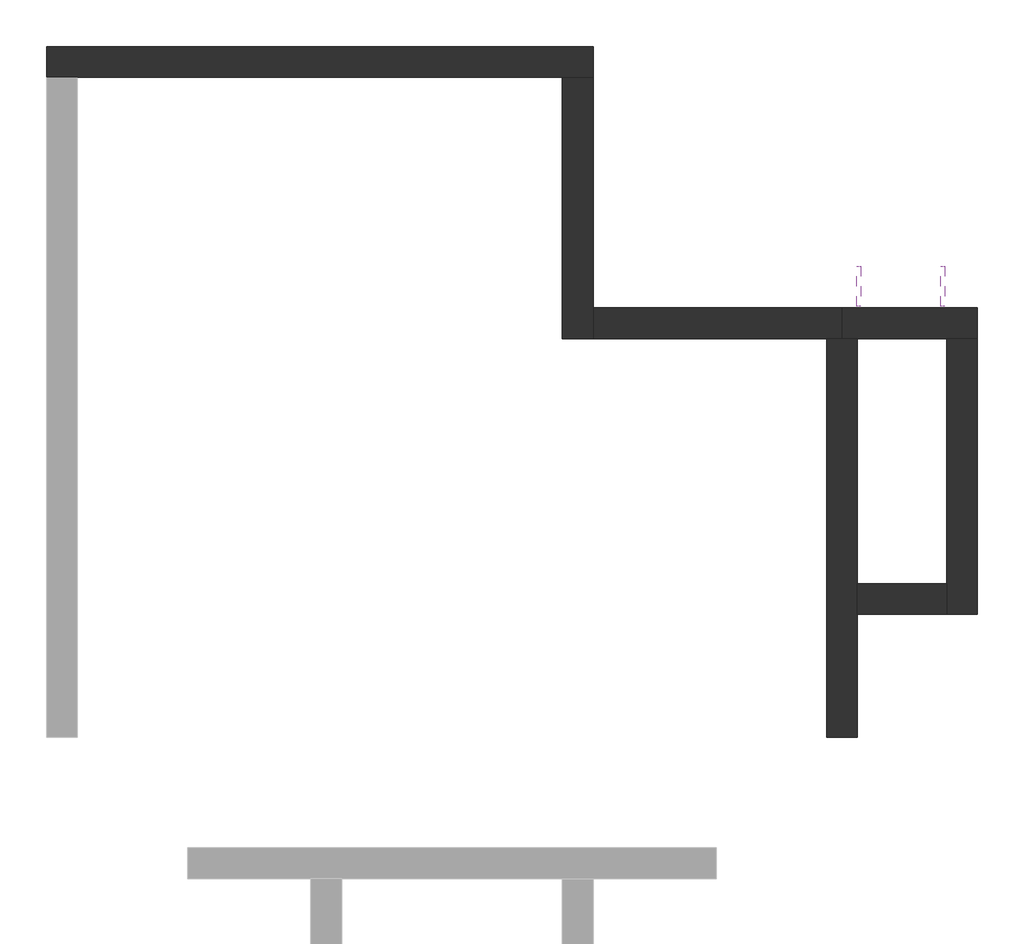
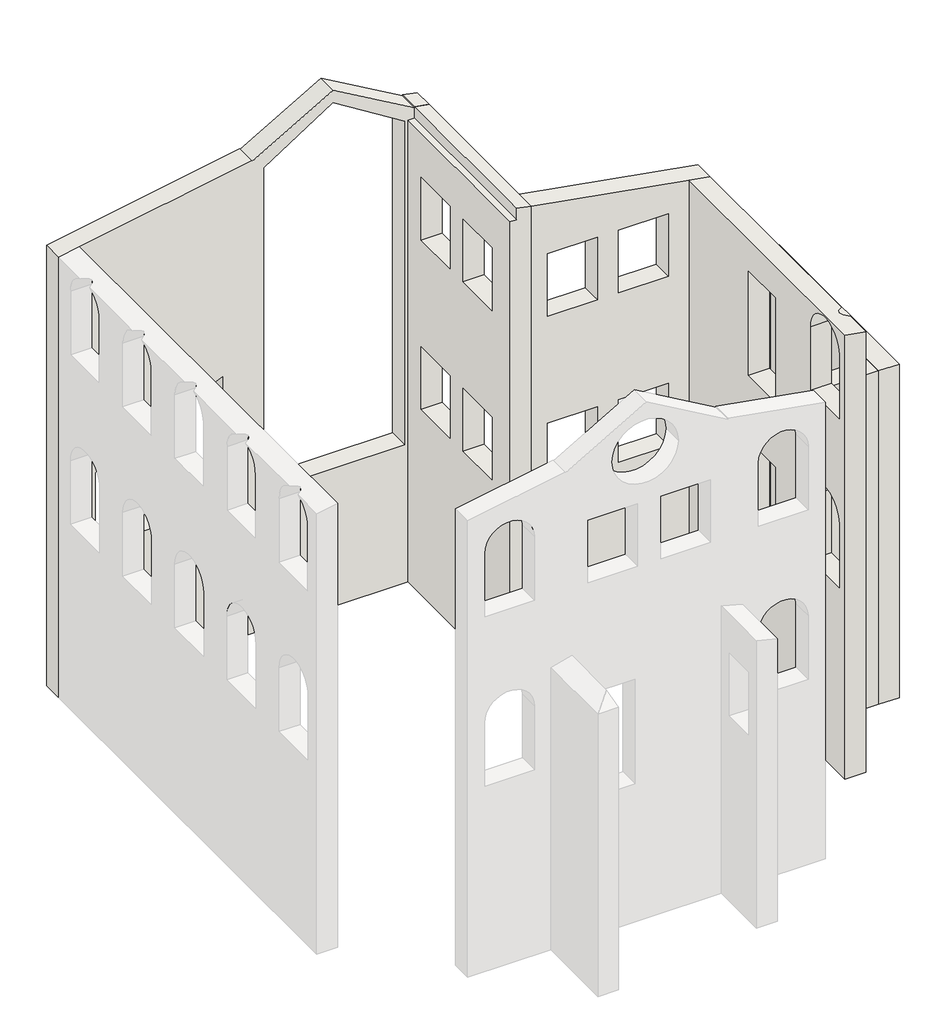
# One storey, part 2 of 2: 7 walls, 2 railings.
"""IFC4 building model written with IfcOpenShell, lengths in millimetres."""

from ifc_helpers import new_model, si_unit, frame, origin, place, context, project, spatial, polyline, circle_curve, ellipse_curve, outline, extrude, faceted_brep, transform, mapped, element, save
from ifc_brep_helpers import plane_surface, revolved_surface, advanced_brep
from components import railing_35c55930, railing_ca177ed8

model = new_model("IFC4")

# Units and contexts
model_context = context("Model", 3, world=origin())
ifc_project = project(units=[si_unit("LENGTHUNIT", "METRE", prefix="MILLI")], contexts=[model_context])

# Site, building, storey
site = spatial("IfcSite", under=ifc_project)
building = spatial("IfcBuilding", under=site)
storey = spatial("IfcBuildingStorey", under=building, Name="Подвал", Elevation=-2700.0)

# Railings
placement = place(None, origin())
railing_shape = railing_35c55930(model_context)
element("IfcRailing", 1, ObjectType="1100 мм", at=placement, inside=storey, context=model_context, shape_type="MappedRepresentation", body=[
    mapped(railing_shape, transform((0.0, 0.0, 0.0), x_axis=(1.0, 0.0, 0.0), y_axis=(0.0, 1.0, 0.0), z_axis=(0.0, 0.0, 1.0))),
])
railing_2_shape = railing_ca177ed8(model_context)
element("IfcRailing", 2, ObjectType="1100 мм", at=placement, inside=storey, context=model_context, shape_type="MappedRepresentation", body=[
    mapped(railing_2_shape, transform((0.0, 0.0, 0.0), x_axis=(1.0, 0.0, 0.0), y_axis=(0.0, 1.0, 0.0), z_axis=(0.0, 0.0, 1.0))),
])

# Walls
element("IfcWall", 3, ObjectType="1 Типовая", at=placement, inside=storey, context=model_context, shape_type="Brep", body=[
    faceted_brep([(-11879.2998207, 7309.4374152, -2700.0), (-11494.2998207, 7309.4374152, -2700.0), (-5434.2998207, 7309.4374152, -2700.0), (-5049.2998207, 7309.4374152, -2700.0), (-5049.2998207, 7309.4374152, 6470.0425267), (-5314.2998207, 7309.4374152, 6516.7691766), (-5314.2998207, 7309.4374152, 6500.0), (-6814.2998207, 7309.4374152, 7366.0254038), (-8314.2998207, 7309.4374152, 6500.0), (-8314.2998207, 7309.4374152, 6516.7691766), (-11494.2998207, 7309.4374152, 5956.0493779), (-11879.2998207, 7309.4374152, 5888.1634904), (-8086.7998207, 7309.4374152, 0.0), (-8086.7998207, 7309.4374152, 6300.0), (-6814.2998207, 7309.4374152, 7125.0), (-5499.2998207, 7309.4374152, 6300.0), (-5499.2998207, 7309.4374152, 0.0), (-11194.2998207, 7309.4374152, 0.0), (-11194.2998207, 7309.4374152, 1440.0), (-8854.2998207, 7309.4374152, 2500.0), (-8854.2998207, 7309.4374152, 0.0), (-5049.2998207, 7694.4374152, -2700.0), (-11879.2998207, 7694.4374152, -2700.0), (-11879.2998207, 7694.4374152, 5888.1634904), (-8314.2998207, 7694.4374152, 6516.7691766), (-8314.2998207, 7694.4374152, 6500.0), (-6814.2998207, 7694.4374152, 7366.0254038), (-5314.2998207, 7694.4374152, 6500.0), (-5314.2998207, 7694.4374152, 6516.7691766), (-5049.2998207, 7694.4374152, 6470.0425267), (-8086.7998207, 7694.4374152, 6300.0), (-8086.7998207, 7694.4374152, 0.0), (-5499.2998207, 7694.4374152, 0.0), (-5499.2998207, 7694.4374152, 6300.0), (-6814.2998207, 7694.4374152, 7125.0), (-11194.2998207, 7694.4374152, 1440.0), (-11194.2998207, 7694.4374152, 0.0), (-8854.2998207, 7694.4374152, 0.0), (-8854.2998207, 7694.4374152, 2500.0)], [[[0, 1, 2, 3, 4, 5, 6, 7, 8, 9, 10, 11], [12, 13, 14, 15, 16], [17, 18, 19, 20]], [[21, 22, 23, 24, 25, 26, 27, 28, 29], [30, 31, 32, 33, 34], [35, 36, 37, 38]], [[3, 2, 1, 0, 22, 21]], [[0, 11, 23, 22]], [[4, 3, 21, 29]], [[28, 27, 6, 5]], [[9, 8, 25, 24]], [[23, 11, 10, 9, 24]], [[4, 29, 28, 5]], [[25, 8, 7, 26]], [[6, 27, 26, 7]], [[30, 13, 12, 31]], [[13, 30, 34, 14]], [[14, 34, 33, 15]], [[15, 33, 32, 16]], [[31, 12, 16, 32]], [[17, 36, 35, 18]], [[18, 35, 38, 19]], [[19, 38, 37, 20]], [[36, 17, 20, 37]]]),
])
element("IfcWall", 4, ObjectType="1 Типовая", at=placement, inside=storey, context=model_context, shape_type="AdvancedBrep", body=[
    advanced_brep(
    [(-2134.2998207, 4044.4374152, -2700.0), (-2134.2998207, -935.5625848, -2700.0), (-2134.2998207, -935.5625848, 5956.0493779), (-2134.2998207, 4044.4374152, 5956.0493779), (-2134.2998207, 2148.4374152, 0.0), (-2134.2998207, 2148.4374152, 2032.0), (-2134.2998207, 1284.4374152, 2032.0), (-2134.2998207, 1284.4374152, 0.0), (-2134.2998207, -750.5625848, 2154.05), (-2134.2998207, -750.5625848, 915.0), (-2134.2998207, 164.4374152, 915.0), (-2134.2998207, 164.4374152, 2154.05), (-2134.2998207, 2148.4374152, 3300.0), (-2134.2998207, 2148.4374152, 5332.0), (-2134.2998207, 1284.4374152, 5332.0), (-2134.2998207, 1284.4374152, 3300.0), (-2134.2998207, -750.5625848, 5454.05), (-2134.2998207, -750.5625848, 4215.0), (-2134.2998207, 164.4374152, 4215.0), (-2134.2998207, 164.4374152, 5454.05), (-1749.2998207, -935.5625848, -2700.0), (-1749.2998207, 599.4374152, -2700.0), (-1749.2998207, 984.4374152, -2700.0), (-1749.2998207, 4044.4374152, -2700.0), (-1749.2998207, 4044.4374152, 3800.0), (-1749.2998207, 4044.4374152, 5888.1634904), (-1749.2998207, -148.6613123, 5888.1634904), (-1749.2998207, 164.4374152, 5454.05), (-1749.2998207, 164.4374152, 4215.0), (-1749.2998207, -750.5625848, 4215.0), (-1749.2998207, -750.5625848, 5454.05), (-1749.2998207, -437.4638573, 5888.1634904), (-1749.2998207, -935.5625848, 5888.1634904), (-1749.2998207, 2148.4374152, 0.0), (-1749.2998207, 1284.4374152, 0.0), (-1749.2998207, 1284.4374152, 2032.0), (-1749.2998207, 2148.4374152, 2032.0), (-1749.2998207, -750.5625848, 2154.05), (-1749.2998207, 164.4374152, 2154.05), (-1749.2998207, 164.4374152, 915.0), (-1749.2998207, -750.5625848, 915.0), (-1749.2998207, 2148.4374152, 3300.0), (-1749.2998207, 1284.4374152, 3300.0), (-1749.2998207, 1284.4374152, 5332.0), (-1749.2998207, 2148.4374152, 5332.0), (-1941.7998207, 4044.4374152, -2700.0)],
    [
        (0, 1),
        (1, 2),
        (2, 3),
        (3, 0),
        (4, 5),
        (5, 6),
        (6, 7),
        (7, 4),
        (8, 9),
        (9, 10),
        (10, 11),
        (11, 8, circle_curve(frame((-2134.2998207, -293.0625848, 2154.05), z_axis=(1.0, 0.0, 0.0), x_axis=(0.0, -1.0, 0.0)), 457.5)),
        (12, 13),
        (13, 14),
        (14, 15),
        (15, 12),
        (16, 17),
        (17, 18),
        (18, 19),
        (19, 16, circle_curve(frame((-2134.2998207, -293.0625848, 5454.05), z_axis=(1.0, 0.0, 0.0), x_axis=(0.0, -1.0, 0.0)), 457.5)),
        (20, 21),
        (21, 22),
        (22, 23),
        (23, 24),
        (24, 25),
        (25, 26),
        (26, 27, circle_curve(frame((-1749.2998207, -293.0625848, 5454.05), z_axis=(-1.0, 0.0, 0.0), x_axis=(0.0, -1.0, 0.0)), 457.5)),
        (27, 28),
        (28, 29),
        (29, 30),
        (30, 31, circle_curve(frame((-1749.2998207, -293.0625848, 5454.05), z_axis=(-1.0, 0.0, 0.0), x_axis=(0.0, -1.0, 0.0)), 457.5)),
        (31, 32),
        (32, 20),
        (33, 34),
        (34, 35),
        (35, 36),
        (36, 33),
        (37, 38, circle_curve(frame((-1749.2998207, -293.0625848, 2154.05), z_axis=(-1.0, 0.0, 0.0), x_axis=(0.0, -1.0, 0.0)), 457.5)),
        (38, 39),
        (39, 40),
        (40, 37),
        (41, 42),
        (42, 43),
        (43, 44),
        (44, 41),
        (0, 45),
        (45, 23),
        (20, 1),
        (32, 2),
        (3, 25),
        (33, 4),
        (7, 34),
        (6, 35),
        (5, 36),
        (8, 37),
        (40, 9),
        (39, 10),
        (38, 11),
        (41, 12),
        (15, 42),
        (14, 43),
        (13, 44),
        (31, 26, ellipse_curve(frame((712.6801248, -293.0625848, 5454.05), z_axis=(-0.17364817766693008, 0.0, -0.9848077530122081), x_axis=(0.9848077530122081, 0.0, -0.17364817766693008)), 2634.637496, 457.5)),
        (16, 30),
        (29, 17),
        (28, 18),
        (27, 19),
    ],
    [
        plane_surface(frame((-2134.2998207, 7429.4374152, -2700.0), z_axis=(-1.0, 0.0, 0.0), x_axis=(0.0, -1.0, 0.0))),
        plane_surface(frame((-1749.2998207, 7429.4374152, -2700.0), z_axis=(1.0, 0.0, 0.0), x_axis=(0.0, 1.0, 0.0))),
        plane_surface(frame((-2134.2998207, 4236.9374152, -2700.0), z_axis=(0.0, 0.0, -1.0), x_axis=(1.0, 0.0, 0.0))),
        plane_surface(frame((-2134.2998207, -935.5625848, -2700.0), z_axis=(0.0, -1.0, 0.0), x_axis=(1.0, 0.0, 0.0))),
        plane_surface(frame((-5314.2998207, 4044.4374152, -2700.0), z_axis=(0.0, 1.0, 0.0), x_axis=(1.0, 0.0, 0.0))),
        plane_surface(frame((-1749.2998207, 2148.4374152, 0.0), z_axis=(0.0, 0.0, 1.0), x_axis=(-1.0, 0.0, 0.0))),
        plane_surface(frame((-1749.2998207, 1284.4374152, 0.0), z_axis=(0.0, 1.0, 0.0), x_axis=(-1.0, 0.0, 0.0))),
        plane_surface(frame((-1749.2998207, 1284.4374152, 2032.0), z_axis=(0.0, 0.0, -1.0), x_axis=(-1.0, 0.0, 0.0))),
        plane_surface(frame((-1749.2998207, 2148.4374152, 2032.0), z_axis=(0.0, -1.0, 0.0), x_axis=(-1.0, 0.0, 0.0))),
        plane_surface(frame((-2134.2998207, -750.5625848, 2154.05), z_axis=(0.0, 1.0, 0.0), x_axis=(1.0, 0.0, 0.0))),
        plane_surface(frame((-2134.2998207, -750.5625848, 915.0), z_axis=(0.0, 0.0, 1.0), x_axis=(1.0, 0.0, 0.0))),
        plane_surface(frame((-2134.2998207, 164.4374152, 915.0), z_axis=(0.0, -1.0, 0.0), x_axis=(1.0, 0.0, 0.0))),
        revolved_surface(polyline([(-1749.2998207, -750.5625848, 2154.05), (-2134.2998207, -750.5625848, 2154.05)]), (-2134.2998207, -293.0625848, 2154.05), (1.0, 0.0, 0.0)),
        plane_surface(frame((-1749.2998207, 2148.4374152, 3300.0), z_axis=(0.0, 0.0, 1.0), x_axis=(-1.0, 0.0, 0.0))),
        plane_surface(frame((-1749.2998207, 1284.4374152, 3300.0), z_axis=(0.0, 1.0, 0.0), x_axis=(-1.0, 0.0, 0.0))),
        plane_surface(frame((-1749.2998207, 1284.4374152, 5332.0), z_axis=(0.0, 0.0, -1.0), x_axis=(-1.0, 0.0, 0.0))),
        plane_surface(frame((-1749.2998207, 2148.4374152, 5332.0), z_axis=(0.0, -1.0, 0.0), x_axis=(-1.0, 0.0, 0.0))),
        plane_surface(frame((-1249.2998207, -3200.5625848, 5800.0), z_axis=(0.17364817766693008, 0.0, 0.9848077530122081), x_axis=(0.0, 1.0, 0.0))),
        plane_surface(frame((-610.2998207, -750.5625848, 5454.05), z_axis=(0.0, 1.0, 0.0), x_axis=(-1.0, 0.0, 0.0))),
        plane_surface(frame((-610.2998207, -750.5625848, 4215.0), z_axis=(0.0, 0.0, 1.0), x_axis=(-1.0, 0.0, 0.0))),
        plane_surface(frame((-610.2998207, 164.4374152, 4215.0), z_axis=(0.0, -1.0, 0.0), x_axis=(-1.0, 0.0, 0.0))),
        revolved_surface(polyline([(3307.2915572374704, -750.5625848, 5454.05), (-2134.2998207, -750.5625848, 5454.05)]), (-3658.2998207, -293.0625848, 5454.05), (1.0, 0.0, 0.0)),
    ],
    [
        (0, [[1, 2, 3, 4], [5, 6, 7, 8], [9, 10, 11, 12], [13, 14, 15, 16], [17, 18, 19, 20]]),
        (1, [[21, 22, 23, 24, 25, 26, 27, 28, 29, 30, 31, 32, 33], [34, 35, 36, 37], [38, 39, 40, 41], [42, 43, 44, 45]]),
        (2, [[-1, 46, 47, -23, -22, -21, 48]]),
        (3, [[-2, -48, -33, 49]]),
        (4, [[-47, -46, -4, 50, -25, -24]]),
        (5, [[-34, 51, -8, 52]]),
        (6, [[-35, -52, -7, 53]]),
        (7, [[-36, -53, -6, 54]]),
        (8, [[-37, -54, -5, -51]]),
        (9, [[-9, 55, -41, 56]]),
        (10, [[-10, -56, -40, 57]]),
        (11, [[-11, -57, -39, 58]]),
        (12, [[-12, -58, -38, -55]]),
        (13, [[-42, 59, -16, 60]]),
        (14, [[-43, -60, -15, 61]]),
        (15, [[-44, -61, -14, 62]]),
        (16, [[-45, -62, -13, -59]]),
        (17, [[-3, -49, -32, 63, -26, -50]]),
        (18, [[64, -30, 65, -17]]),
        (19, [[-65, -29, 66, -18]]),
        (20, [[-66, -28, 67, -19]]),
        (21, [[-64, -20, -67, -27, -63, -31]]),
    ],
),
])
element("IfcWall", 5, ObjectType="1 Типовая", at=placement, inside=storey, context=model_context, shape_type="Brep", body=[
    faceted_brep([(-5434.2998207, 7309.4374152, -2700.0), (-5434.2998207, 4044.4374152, -2700.0), (-5434.2998207, 4044.4374152, 0.0), (-5434.2998207, 4044.4374152, 6300.0), (-5434.2998207, 4284.4374152, 6300.0), (-5434.2998207, 7309.4374152, 6300.0), (-5434.2998207, 4629.4374152, 2135.0), (-5434.2998207, 4629.4374152, 915.0), (-5434.2998207, 5554.4374152, 915.0), (-5434.2998207, 5554.4374152, 2135.0), (-5434.2998207, 5969.4374152, 2135.0), (-5434.2998207, 5969.4374152, 915.0), (-5434.2998207, 6894.4374152, 915.0), (-5434.2998207, 6894.4374152, 2135.0), (-5434.2998207, 4629.4374152, 5435.0), (-5434.2998207, 4629.4374152, 4215.0), (-5434.2998207, 5554.4374152, 4215.0), (-5434.2998207, 5554.4374152, 5435.0), (-5434.2998207, 5969.4374152, 5435.0), (-5434.2998207, 5969.4374152, 4215.0), (-5434.2998207, 6894.4374152, 4215.0), (-5434.2998207, 6894.4374152, 5435.0), (-5049.2998207, 7309.4374152, -2700.0), (-5049.2998207, 7309.4374152, 6470.0425267), (-5049.2998207, 4429.4374152, 6470.0425267), (-5049.2998207, 4044.4374152, 6470.0425267), (-5049.2998207, 4044.4374152, -2700.0), (-5049.2998207, 4429.4374152, -2700.0), (-5049.2998207, 4629.4374152, 2135.0), (-5049.2998207, 5554.4374152, 2135.0), (-5049.2998207, 5554.4374152, 915.0), (-5049.2998207, 4629.4374152, 915.0), (-5049.2998207, 5969.4374152, 2135.0), (-5049.2998207, 6894.4374152, 2135.0), (-5049.2998207, 6894.4374152, 915.0), (-5049.2998207, 5969.4374152, 915.0), (-5049.2998207, 4629.4374152, 5435.0), (-5049.2998207, 5554.4374152, 5435.0), (-5049.2998207, 5554.4374152, 4215.0), (-5049.2998207, 4629.4374152, 4215.0), (-5049.2998207, 5969.4374152, 5435.0), (-5049.2998207, 6894.4374152, 5435.0), (-5049.2998207, 6894.4374152, 4215.0), (-5049.2998207, 5969.4374152, 4215.0), (-5314.2998207, 7309.4374152, 6300.0), (-5314.2998207, 7309.4374152, 6500.0), (-5314.2998207, 7309.4374152, 6516.7691766), (-5314.2998207, 4044.4374152, 6516.7691766), (-5314.2998207, 4044.4374152, 6300.0)], [[[0, 1, 2, 3, 4, 5], [6, 7, 8, 9], [10, 11, 12, 13], [14, 15, 16, 17], [18, 19, 20, 21]], [[22, 23, 24, 25, 26, 27], [28, 29, 30, 31], [32, 33, 34, 35], [36, 37, 38, 39], [40, 41, 42, 43]], [[1, 0, 22, 27, 26]], [[0, 5, 44, 45, 46, 23, 22]], [[7, 6, 28, 31]], [[8, 7, 31, 30]], [[9, 8, 30, 29]], [[6, 9, 29, 28]], [[11, 10, 32, 35]], [[12, 11, 35, 34]], [[13, 12, 34, 33]], [[10, 13, 33, 32]], [[15, 14, 36, 39]], [[16, 15, 39, 38]], [[17, 16, 38, 37]], [[14, 17, 37, 36]], [[19, 18, 40, 43]], [[20, 19, 43, 42]], [[21, 20, 42, 41]], [[18, 21, 41, 40]], [[1, 26, 25, 47, 48, 3, 2]], [[5, 4, 3, 48, 44]], [[44, 48, 47, 46, 45]], [[47, 25, 24, 23, 46]]]),
])
element("IfcWall", 6, ObjectType="1 Типовая", at=placement, inside=storey, context=model_context, shape_type="Brep", body=[
    faceted_brep([(-5049.2998207, 4044.4374152, 6470.0425267), (-5049.2998207, 4044.4374152, -2700.0), (-2134.2998207, 4044.4374152, -2700.0), (-1941.7998207, 4044.4374152, -2700.0), (-1941.7998207, 4044.4374152, 3800.0), (-1749.2998207, 4044.4374152, 3800.0), (-1749.2998207, 4044.4374152, 5888.1634904), (-2134.2998207, 4044.4374152, 5956.0493779), (-3824.2998207, 4044.4374152, 2135.0), (-3824.2998207, 4044.4374152, 915.0), (-4749.2998207, 4044.4374152, 915.0), (-4749.2998207, 4044.4374152, 2135.0), (-2516.7998207, 4044.4374152, 2135.0), (-2516.7998207, 4044.4374152, 915.0), (-3441.7998207, 4044.4374152, 915.0), (-3441.7998207, 4044.4374152, 2135.0), (-3824.2998207, 4044.4374152, 5435.0), (-3824.2998207, 4044.4374152, 4215.0), (-4749.2998207, 4044.4374152, 4215.0), (-4749.2998207, 4044.4374152, 5435.0), (-2516.7998207, 4044.4374152, 5435.0), (-2516.7998207, 4044.4374152, 4215.0), (-3441.7998207, 4044.4374152, 4215.0), (-3441.7998207, 4044.4374152, 5435.0), (-5049.2998207, 4429.4374152, -2700.0), (-5049.2998207, 4429.4374152, 6470.0425267), (-1749.2998207, 4429.4374152, 5888.1634904), (-1749.2998207, 4429.4374152, 3800.0), (-1941.7998207, 4429.4374152, 3800.0), (-1941.7998207, 4429.4374152, -2700.0), (-3824.2998207, 4429.4374152, 2135.0), (-4749.2998207, 4429.4374152, 2135.0), (-4749.2998207, 4429.4374152, 915.0), (-3824.2998207, 4429.4374152, 915.0), (-2516.7998207, 4429.4374152, 2135.0), (-3441.7998207, 4429.4374152, 2135.0), (-3441.7998207, 4429.4374152, 915.0), (-2516.7998207, 4429.4374152, 915.0), (-3824.2998207, 4429.4374152, 5435.0), (-4749.2998207, 4429.4374152, 5435.0), (-4749.2998207, 4429.4374152, 4215.0), (-3824.2998207, 4429.4374152, 4215.0), (-2516.7998207, 4429.4374152, 5435.0), (-3441.7998207, 4429.4374152, 5435.0), (-3441.7998207, 4429.4374152, 4215.0), (-2516.7998207, 4429.4374152, 4215.0)], [[[0, 1, 2, 3, 4, 5, 6, 7], [8, 9, 10, 11], [12, 13, 14, 15], [16, 17, 18, 19], [20, 21, 22, 23]], [[24, 25, 26, 27, 28, 29], [30, 31, 32, 33], [34, 35, 36, 37], [38, 39, 40, 41], [42, 43, 44, 45]], [[3, 2, 1, 24, 29]], [[4, 3, 29, 28]], [[27, 5, 4, 28]], [[6, 5, 27, 26]], [[9, 8, 30, 33]], [[10, 9, 33, 32]], [[11, 10, 32, 31]], [[8, 11, 31, 30]], [[13, 12, 34, 37]], [[14, 13, 37, 36]], [[15, 14, 36, 35]], [[12, 15, 35, 34]], [[17, 16, 38, 41]], [[18, 17, 41, 40]], [[19, 18, 40, 39]], [[16, 19, 39, 38]], [[21, 20, 42, 45]], [[22, 21, 45, 44]], [[23, 22, 44, 43]], [[20, 23, 43, 42]], [[0, 25, 24, 1]], [[0, 7, 6, 26, 25]]]),
])
element("IfcWall", 7, ObjectType="1 Типовая", at=placement, inside=storey, context=model_context, shape_type="Brep", body=[
    faceted_brep([(-634.2998207, 4044.4374152, -2700.0), (-634.2998207, 984.4374152, -2700.0), (-634.2998207, 599.4374152, -2700.0), (-634.2998207, 599.4374152, 3800.0), (-634.2998207, 984.4374152, 3800.0), (-634.2998207, 4044.4374152, 3800.0), (-634.2998207, 2397.8153021, 2200.0), (-634.2998207, 1457.3347767, 2200.0), (-634.2998207, 1457.3347767, 1000.0), (-634.2998207, 2397.8153021, 1000.0), (-634.2998207, 3697.8153021, 2200.0), (-634.2998207, 2757.3347767, 2200.0), (-634.2998207, 2757.3347767, 1000.0), (-634.2998207, 3697.8153021, 1000.0), (-249.2998207, 599.4374152, -2700.0), (-249.2998207, 4044.4374152, -2700.0), (-249.2998207, 4044.4374152, 3800.0), (-249.2998207, 599.4374152, 3800.0), (-249.2998207, 1457.3347767, 2200.0), (-249.2998207, 2397.8153021, 2200.0), (-249.2998207, 2397.8153021, 1000.0), (-249.2998207, 1457.3347767, 1000.0), (-249.2998207, 2757.3347767, 2200.0), (-249.2998207, 3697.8153021, 2200.0), (-249.2998207, 3697.8153021, 1000.0), (-249.2998207, 2757.3347767, 1000.0)], [[[0, 1, 2, 3, 4, 5], [6, 7, 8, 9], [10, 11, 12, 13]], [[14, 15, 16, 17], [18, 19, 20, 21], [22, 23, 24, 25]], [[2, 1, 0, 15, 14]], [[5, 4, 3, 17, 16]], [[0, 5, 16, 15]], [[3, 2, 14, 17]], [[6, 19, 18, 7]], [[8, 21, 20, 9]], [[19, 6, 9, 20]], [[7, 18, 21, 8]], [[10, 23, 22, 11]], [[12, 25, 24, 13]], [[23, 10, 13, 24]], [[11, 22, 25, 12]]]),
])
element("IfcWall", 8, ObjectType="1 Типовая", at=placement, inside=storey, context=model_context, shape_type="SweptSolid", body=[
    extrude(outline(polyline([(-1749.2998207, 984.4374152), (-634.2998207, 984.4374152), (-634.2998207, 599.4374152), (-1749.2998207, 599.4374152), (-1749.2998207, 984.4374152)])), frame((0.0, 0.0, -2700.0), z_axis=(0.0, 0.0, 1.0), x_axis=(1.0, 0.0, 0.0)), (0.0, 0.0, 1.0), 6500.0),
])
element("IfcWall", 9, ObjectType="1 Типовая", at=placement, inside=storey, context=model_context, shape_type="Brep", body=[
    faceted_brep([(-1941.7998207, 4044.4374152, -2700.0), (-1749.2998207, 4044.4374152, -2700.0), (-634.2998207, 4044.4374152, -2700.0), (-249.2998207, 4044.4374152, -2700.0), (-249.2998207, 4044.4374152, 3800.0), (-634.2998207, 4044.4374152, 3800.0), (-1749.2998207, 4044.4374152, 3800.0), (-1941.7998207, 4044.4374152, 3800.0), (-749.2998207, 4044.4374152, 0.0), (-1649.2998207, 4044.4374152, 0.0), (-1649.2998207, 4044.4374152, 2400.0), (-749.2998207, 4044.4374152, 2400.0), (-249.2998207, 4429.4374152, -2700.0), (-1941.7998207, 4429.4374152, -2700.0), (-1941.7998207, 4429.4374152, 3800.0), (-1749.2998207, 4429.4374152, 3800.0), (-249.2998207, 4429.4374152, 3800.0), (-1649.2998207, 4429.4374152, 0.0), (-749.2998207, 4429.4374152, 0.0), (-749.2998207, 4429.4374152, 2400.0), (-1649.2998207, 4429.4374152, 2400.0)], [[[0, 1, 2, 3, 4, 5, 6, 7], [8, 9, 10, 11]], [[12, 13, 14, 15, 16], [17, 18, 19, 20]], [[3, 2, 1, 0, 13, 12]], [[7, 6, 5, 4, 16, 15, 14]], [[0, 7, 14, 13]], [[4, 3, 12, 16]], [[8, 18, 17, 9]], [[20, 10, 9, 17]], [[11, 19, 18, 8]], [[10, 20, 19, 11]]]),
])

save(model, "model.ifc")
